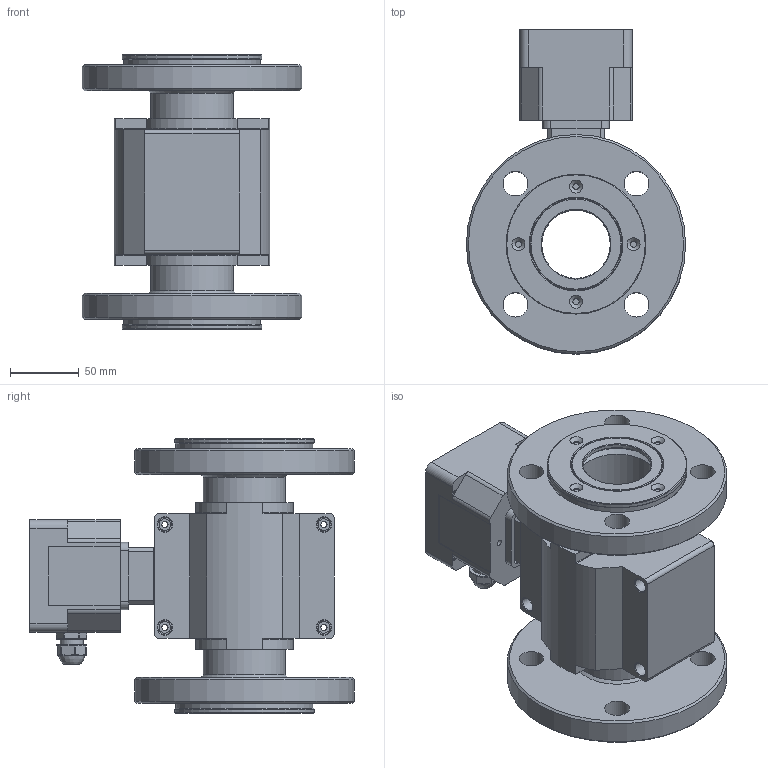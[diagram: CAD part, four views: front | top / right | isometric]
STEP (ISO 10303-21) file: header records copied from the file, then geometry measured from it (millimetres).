
FILE_DESCRIPTION(/* description */ (''),/* implementation_level */ '2;1');
FILE_NAME(/* name */ 'C:\ТЭК\Реклама\ПРЭМ-50F.stp',/* time_stamp */ '2019-12-23T13:32:20+03:00',/* author */ ('Kishalov.m'),/* organization */ (''),/* preprocessor_version */ 'ST-DEVELOPER v18',/* originating_system */ 'Autodesk Inventor 2020',/* authorisation */ '');
FILE_SCHEMA (('AUTOMOTIVE_DESIGN { 1 0 10303 214 3 1 1 }'));
Products named in the file (1): ПРЭМ-50F
Bounding box: 160 x 236.5 x 200 mm (x, y, z)
Volume: 1185411 mm3; surface area: 380568.2 mm2
Topology: 5 solids, 5 shells, 2575 faces, 6727 edges, 4281 vertices
Faces by surface type: plane 1453, cylinder 503, bspline 461, sphere 92, cone 50, torus 16
Full cylindrical faces by diameter (mm): 0.431 x1, 0.546 x1, 1.159 x2, 1.5 x2, 1.7 x4, 1.8 x8, 2 x4, 2.5 x4, 3 x4, 3.242 x4, 4.2 x1, 4.5 x20, 4.7 x4, 4.9 x4, 5.472 x1, 5.5 x3, 7.5 x4, 8.5 x12, 10.3 x8, 11 x8, 12 x2, 13 x2, 17 x6, 18 x8, 19.094 x2, 20.5 x1, 50 x2, 56 x1, 60 x1, 60.5 x4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
Entity records: 88480 total; most frequent: CARTESIAN_POINT 25103, ORIENTED_EDGE 13266, DIRECTION 11216, EDGE_CURVE 6633, LINE 4432, VECTOR 4432, VERTEX_POINT 4281, AXIS2_PLACEMENT_3D 3392
